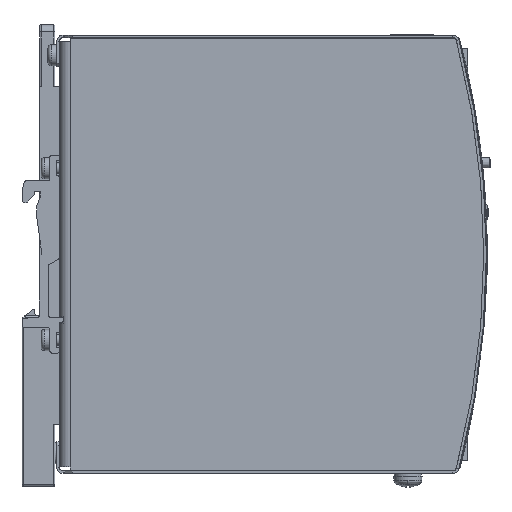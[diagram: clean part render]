
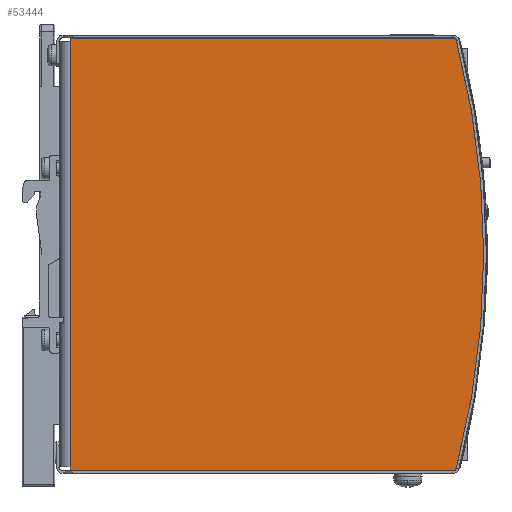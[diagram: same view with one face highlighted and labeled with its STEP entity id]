
A CAD part, front view. The second image highlights one B-rep face of the part: STEP entity #53444.
In plain terms, the highlighted planar face has unit normal (0, -1, 0).
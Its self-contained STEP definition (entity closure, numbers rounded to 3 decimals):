
#2460 = CIRCLE ( 'NONE', #45325, 240. ) ;
#6169 = AXIS2_PLACEMENT_3D ( 'NONE', #66237, #107159, #69530 ) ;
#6884 = ORIENTED_EDGE ( 'NONE', *, *, #32335, .F. ) ;
#6973 = DIRECTION ( 'NONE',  ( 0., -1., 0. ) ) ;
#11200 = CARTESIAN_POINT ( 'NONE',  ( 112.275, -24., 60.402 ) ) ;
#13464 = VERTEX_POINT ( 'NONE', #46605 ) ;
#17077 = VERTEX_POINT ( 'NONE', #11200 ) ;
#18946 = VECTOR ( 'NONE', #114624, 1000. ) ;
#22802 = CIRCLE ( 'NONE', #67810, 1. ) ;
#23369 = LINE ( 'NONE', #34032, #54576 ) ;
#27747 = LINE ( 'NONE', #108253, #131754 ) ;
#29702 = EDGE_CURVE ( 'NONE', #86983, #107871, #22802, .T. ) ;
#31723 = CIRCLE ( 'NONE', #6169, 1. ) ;
#32335 = EDGE_CURVE ( 'NONE', #82875, #17077, #31723, .T. ) ;
#32741 = CARTESIAN_POINT ( 'NONE',  ( 3., -24., 60.15 ) ) ;
#34032 = CARTESIAN_POINT ( 'NONE',  ( 111.307, -24., -61.15 ) ) ;
#34909 = CARTESIAN_POINT ( 'NONE',  ( 3., -24., 60.15 ) ) ;
#36391 = CARTESIAN_POINT ( 'NONE',  ( 3., -24., -60.15 ) ) ;
#36502 = EDGE_CURVE ( 'NONE', #82875, #96612, #79212, .T. ) ;
#41449 = VECTOR ( 'NONE', #97351, 1000. ) ;
#41523 = EDGE_LOOP ( 'NONE', ( #93592, #109437, #110916, #6884, #80093, #103292, #116746, #64912, #131289 ) ) ;
#45325 = AXIS2_PLACEMENT_3D ( 'NONE', #49413, #101730, #90417 ) ;
#46605 = CARTESIAN_POINT ( 'NONE',  ( 120., -24., 0. ) ) ;
#47820 = DIRECTION ( 'NONE',  ( -0.967, 0., -0.255 ) ) ;
#49413 = CARTESIAN_POINT ( 'NONE',  ( -120., -24., 0. ) ) ;
#50937 = CARTESIAN_POINT ( 'NONE',  ( 3., -24., 61.15 ) ) ;
#53444 = ADVANCED_FACE ( 'NONE', ( #99365 ), #97411, .T. ) ;
#54576 = VECTOR ( 'NONE', #115857, 1000. ) ;
#59320 = VECTOR ( 'NONE', #63806, 1000. ) ;
#61189 = VERTEX_POINT ( 'NONE', #36391 ) ;
#61690 = EDGE_CURVE ( 'NONE', #86983, #13464, #2460, .T. ) ;
#63806 = DIRECTION ( 'NONE',  ( 0., 0., -1. ) ) ;
#64912 = ORIENTED_EDGE ( 'NONE', *, *, #100534, .T. ) ;
#66237 = CARTESIAN_POINT ( 'NONE',  ( 111.307, -24., 60.15 ) ) ;
#67214 = DIRECTION ( 'NONE',  ( 0., 0., -1. ) ) ;
#67810 = AXIS2_PLACEMENT_3D ( 'NONE', #78290, #128612, #68866 ) ;
#67869 = DIRECTION ( 'NONE',  ( 0., -1., 0. ) ) ;
#68866 = DIRECTION ( 'NONE',  ( 0.612, 0., -0.791 ) ) ;
#69530 = DIRECTION ( 'NONE',  ( 0.612, 0., 0.791 ) ) ;
#70852 = CARTESIAN_POINT ( 'NONE',  ( 3., -24., -61.15 ) ) ;
#71680 = CARTESIAN_POINT ( 'NONE',  ( 112.275, -24., -60.402 ) ) ;
#73694 = EDGE_CURVE ( 'NONE', #13464, #17077, #103999, .T. ) ;
#77265 = CARTESIAN_POINT ( 'NONE',  ( 130., -24., -61.15 ) ) ;
#78290 = CARTESIAN_POINT ( 'NONE',  ( 111.307, -24., -60.15 ) ) ;
#79212 = LINE ( 'NONE', #86612, #41449 ) ;
#80093 = ORIENTED_EDGE ( 'NONE', *, *, #36502, .T. ) ;
#82875 = VERTEX_POINT ( 'NONE', #101989 ) ;
#86612 = CARTESIAN_POINT ( 'NONE',  ( 111.307, -24., 61.15 ) ) ;
#86812 = DIRECTION ( 'NONE',  ( 0., 0., -1. ) ) ;
#86983 = VERTEX_POINT ( 'NONE', #71680 ) ;
#90417 = DIRECTION ( 'NONE',  ( -0.967, 0., -0.255 ) ) ;
#93592 = ORIENTED_EDGE ( 'NONE', *, *, #29702, .F. ) ;
#96612 = VERTEX_POINT ( 'NONE', #123845 ) ;
#97351 = DIRECTION ( 'NONE',  ( -1., 0., 0. ) ) ;
#97411 = PLANE ( 'NONE',  #116471 ) ;
#98742 = VERTEX_POINT ( 'NONE', #32741 ) ;
#99365 = FACE_OUTER_BOUND ( 'NONE', #41523, .T. ) ;
#100534 = EDGE_CURVE ( 'NONE', #61189, #107488, #27747, .T. ) ;
#101730 = DIRECTION ( 'NONE',  ( 0., -1., 0. ) ) ;
#101928 = LINE ( 'NONE', #50937, #18946 ) ;
#101989 = CARTESIAN_POINT ( 'NONE',  ( 111.307, -24., 61.15 ) ) ;
#103292 = ORIENTED_EDGE ( 'NONE', *, *, #104795, .T. ) ;
#103999 = CIRCLE ( 'NONE', #121149, 240. ) ;
#104795 = EDGE_CURVE ( 'NONE', #96612, #98742, #101928, .T. ) ;
#106072 = LINE ( 'NONE', #34909, #59320 ) ;
#107159 = DIRECTION ( 'NONE',  ( 0., 1., 0. ) ) ;
#107488 = VERTEX_POINT ( 'NONE', #70852 ) ;
#107871 = VERTEX_POINT ( 'NONE', #115522 ) ;
#108253 = CARTESIAN_POINT ( 'NONE',  ( 3., -24., -60.15 ) ) ;
#109437 = ORIENTED_EDGE ( 'NONE', *, *, #61690, .T. ) ;
#110916 = ORIENTED_EDGE ( 'NONE', *, *, #73694, .T. ) ;
#114624 = DIRECTION ( 'NONE',  ( 0., 0., -1. ) ) ;
#115522 = CARTESIAN_POINT ( 'NONE',  ( 111.307, -24., -61.15 ) ) ;
#115857 = DIRECTION ( 'NONE',  ( -1., 0., 0. ) ) ;
#116471 = AXIS2_PLACEMENT_3D ( 'NONE', #77265, #67869, #67214 ) ;
#116746 = ORIENTED_EDGE ( 'NONE', *, *, #129966, .T. ) ;
#119591 = CARTESIAN_POINT ( 'NONE',  ( -120., -24., 0. ) ) ;
#121149 = AXIS2_PLACEMENT_3D ( 'NONE', #119591, #6973, #47820 ) ;
#123845 = CARTESIAN_POINT ( 'NONE',  ( 3., -24., 61.15 ) ) ;
#125078 = EDGE_CURVE ( 'NONE', #107871, #107488, #23369, .T. ) ;
#128612 = DIRECTION ( 'NONE',  ( 0., 1., 0. ) ) ;
#129966 = EDGE_CURVE ( 'NONE', #98742, #61189, #106072, .T. ) ;
#131289 = ORIENTED_EDGE ( 'NONE', *, *, #125078, .F. ) ;
#131754 = VECTOR ( 'NONE', #86812, 1000. ) ;
